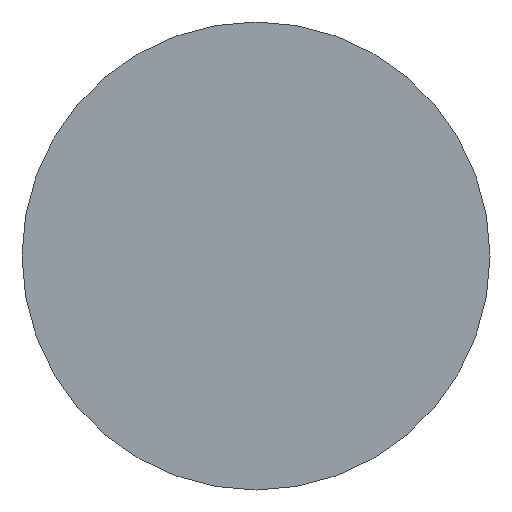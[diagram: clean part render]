
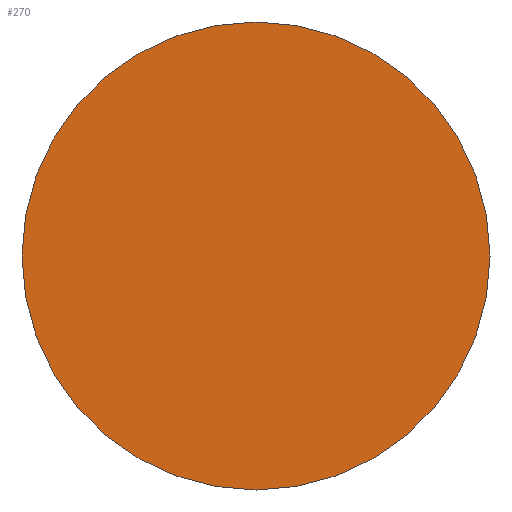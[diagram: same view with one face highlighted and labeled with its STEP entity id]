
A CAD part, left-side view. The second image highlights one B-rep face of the part: STEP entity #270.
In plain terms, the highlighted planar face has unit normal (-1, 0, 0).
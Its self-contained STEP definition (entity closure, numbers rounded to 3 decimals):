
#231=CARTESIAN_POINT('',(-418.291,-481.526,-23.525));
#232=VERTEX_POINT('',#231);
#239=CARTESIAN_POINT('',(-418.291,-481.526,-88.525));
#240=VERTEX_POINT('',#239);
#241=CARTESIAN_POINT('',(-418.291,-481.526,-56.025));
#242=DIRECTION('',(1.0,0.0,0.0));
#243=DIRECTION('',(0.0,0.0,1.0));
#244=AXIS2_PLACEMENT_3D('',#241,#242,#243);
#245=CIRCLE('',#244,32.5);
#246=EDGE_CURVE('',#232,#240,#245,.T.);
#248=CARTESIAN_POINT('',(-418.291,-481.526,-56.025));
#249=DIRECTION('',(1.0,0.0,0.0));
#250=DIRECTION('',(0.0,0.0,1.0));
#251=AXIS2_PLACEMENT_3D('',#248,#249,#250);
#252=CIRCLE('',#251,32.5);
#253=EDGE_CURVE('',#240,#232,#252,.T.);
#261=CARTESIAN_POINT('',(-418.291,-416.526,8.975));
#262=DIRECTION('',(1.0,0.0,0.0));
#263=DIRECTION('',(0.0,-1.0,0.0));
#264=AXIS2_PLACEMENT_3D('',#261,#262,#263);
#265=PLANE('',#264);
#266=ORIENTED_EDGE('',*,*,#253,.F.);
#267=ORIENTED_EDGE('',*,*,#246,.F.);
#268=EDGE_LOOP('',(#266,#267));
#269=FACE_OUTER_BOUND('',#268,.T.);
#270=ADVANCED_FACE('',(#269),#265,.F.);
